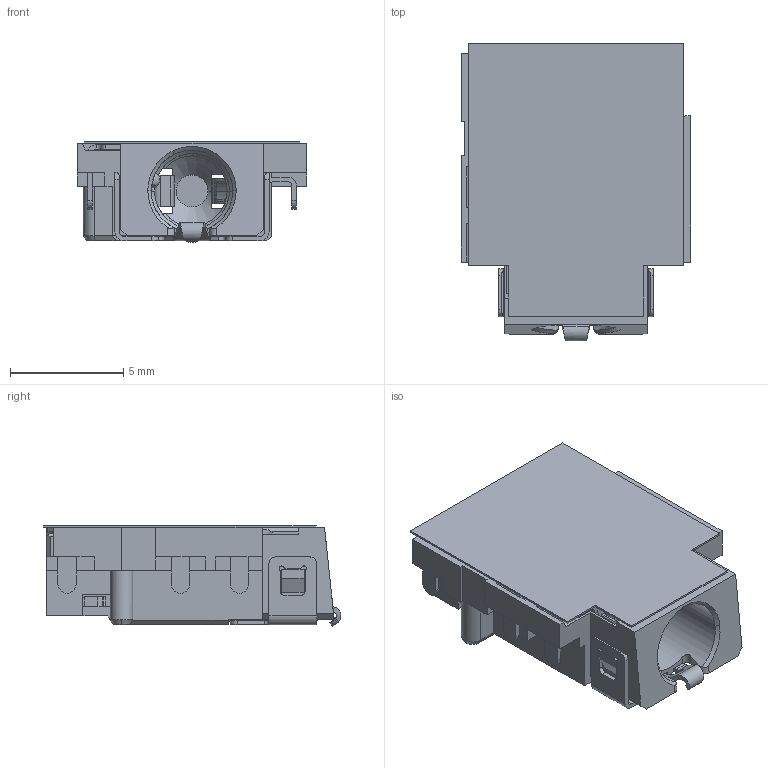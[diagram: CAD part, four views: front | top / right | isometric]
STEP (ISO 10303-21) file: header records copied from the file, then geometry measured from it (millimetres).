
FILE_DESCRIPTION (( 'STEP AP214' ), '1' );
FILE_NAME ('J3B-1.STEP', '2021-04-06T12:45:59', ( '' ), ( '' ), 'SwSTEP 2.0', 'SolidWorks 2016', '' );
FILE_SCHEMA (( 'AUTOMOTIVE_DESIGN' ));
Length unit declared in the file: millimetre
Products named in the file (3): Mylar; J3B-1; 傖こ
Assembly tree (2 placements, depth 2):
  J3B-1
    傖こ
    Mylar
Bounding box: 10.1 x 13.12 x 4.44 mm (x, y, z)
Volume: 257.7 mm3; surface area: 1197.1 mm2
Topology: 3 solids, 3 shells, 936 faces, 2663 edges, 1709 vertices
Faces by surface type: plane 573, cylinder 277, bspline 70, cone 10, torus 6
Entity records: 33363 total; most frequent: CARTESIAN_POINT 9344, ORIENTED_EDGE 5302, DIRECTION 4616, EDGE_CURVE 2651, LINE 1900, VECTOR 1900, VERTEX_POINT 1709, AXIS2_PLACEMENT_3D 1358
